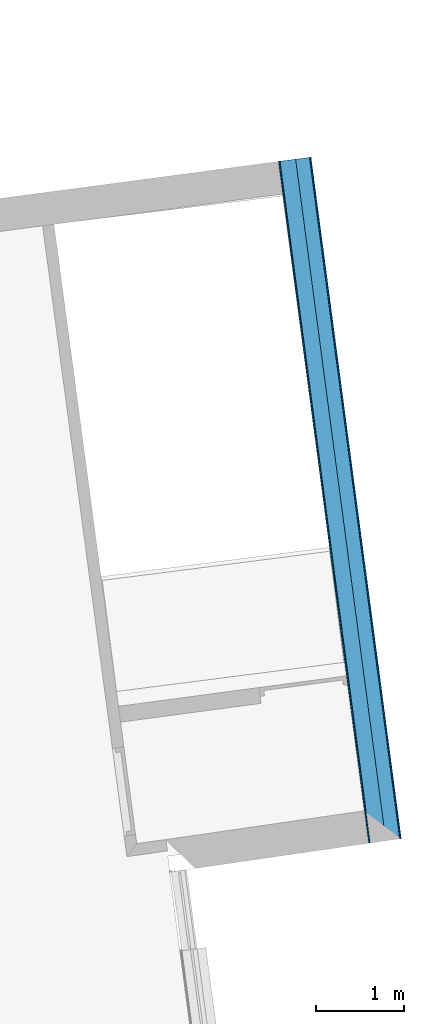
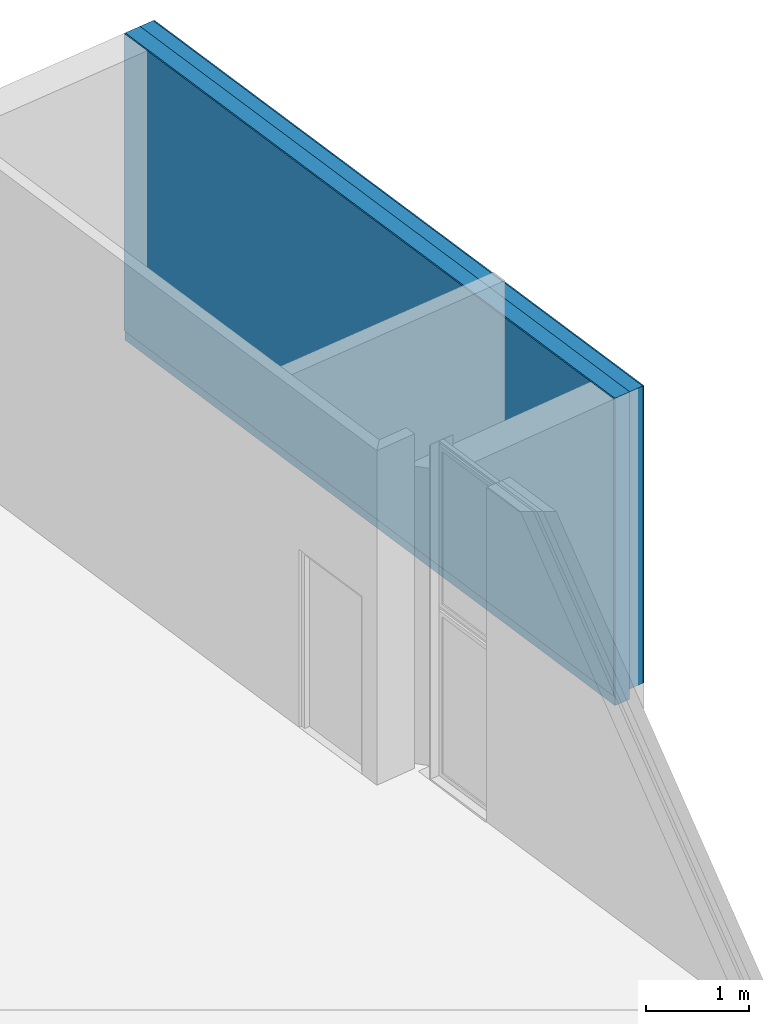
# One storey, part 6 of 9: 4 building element parts, 1 element without a shape of its own.
"""IFC2X3 building model written with IfcOpenShell, lengths in metres."""

from ifc_helpers import new_model, entity, si_unit, converted_unit, money_unit, direction, frame, origin_with_axes, place, context, subcontext, project, spatial, polyline, outline, extrude, clip, halfspace, material, type_object, element, aggregate, save


model = new_model("IFC2X3")

# Units and contexts
model_context = context("Model", 3, precision=1e-05, world=origin_with_axes(), true_north=direction((0.0, 1.0)))
body_context = subcontext(model_context, "Body", "Model", "MODEL_VIEW")
ifc_project = project(units=[si_unit("LENGTHUNIT", "METRE"), si_unit("AREAUNIT", "SQUARE_METRE"), si_unit("VOLUMEUNIT", "CUBIC_METRE"), converted_unit("PLANEANGLEUNIT", "DEGREE", entity("IfcPlaneAngleMeasure", 0.0174532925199), si_unit("PLANEANGLEUNIT", "RADIAN"), dimensions=[0, 0, 0, 0, 0, 0, 0]), si_unit("SOLIDANGLEUNIT", "STERADIAN"), money_unit("EUR"), converted_unit("TIMEUNIT", "Year", entity("IfcTimeMeasure", 31556926.0), si_unit("TIMEUNIT", "SECOND"), dimensions=[0, 0, 0, 0, 0, 0, 0]), si_unit("MASSUNIT", "GRAM"), si_unit("THERMODYNAMICTEMPERATUREUNIT", "DEGREE_CELSIUS"), si_unit("LUMINOUSINTENSITYUNIT", "LUMEN")], contexts=[model_context])

# Site, building, storey
site_placement = place(None, origin_with_axes())
site = spatial("IfcSite", under=ifc_project, at=site_placement, Name="Undefined", CompositionType="ELEMENT")
building_placement = place(site_placement, origin_with_axes())
building = spatial("IfcBuilding", under=site, at=building_placement, Name="Undefined", CompositionType="ELEMENT")
storey_placement = place(building_placement, frame((0.0, 0.0, 13.45), z_axis=(0.0, 0.0, 1.0), x_axis=(1.0, 0.0, 0.0)))
storey = spatial("IfcBuildingStorey", under=building, at=storey_placement, Name="R+2", CompositionType="ELEMENT", Elevation=13.45)

# Wall, building element parts
wall_type = type_object("IfcWallType", Name="Profil personnalis\x8e 370 x 3630", PredefinedType="NOTDEFINED")
wall_placement = place(storey_placement, frame((68.3507482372, 20.1953635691, 0.0), z_axis=(0.0, 0.0, 1.0), x_axis=(-0.131283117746, 0.99134491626, 0.0)))
wall = element("IfcWall", 1, at=wall_placement, inside=storey, type_object=wall_type, Name="SW - 014", ObjectType="WALL")
ifc_material_1 = material(Name="Finition ext - Cr\x8epis")
building_element_part_1_placement = place(wall_placement, origin_with_axes())
building_element_part_1 = element("IfcBuildingElementPart", 2, at=building_element_part_1_placement, material=ifc_material_1, context=body_context, shape_type="Clipping", body=[
    clip(extrude(outline(polyline([(-0.015, 0.0), (0.0, 0.0), (0.0, 3.51), (-0.015, 3.51), (-0.015, 0.0)])), frame((0.0, 0.0, 0.0), z_axis=(-1.0, 0.0, 0.0), x_axis=(0.0, -1.0, 0.0)), (0.0, 0.0, -1.0), 7.77321870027), halfspace(frame((-0.000514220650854, 0.523443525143, 5.98298975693), z_axis=(8.56200506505e-05, -0.0871557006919, -0.996194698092), x_axis=(0.0, 0.996194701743, -0.0871557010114)), True)),
])
ifc_material_2 = material(Name="Isolation - Fibres de bois")
building_element_part_2_placement = place(wall_placement, origin_with_axes())
building_element_part_2 = element("IfcBuildingElementPart", 3, at=building_element_part_2_placement, material=ifc_material_2, context=body_context, shape_type="Clipping", body=[
    clip(extrude(outline(polyline([(-0.175, 0.0), (-0.015, 0.0), (-0.015, 3.51), (-0.175, 3.51), (-0.175, 0.0)])), frame((0.0, 0.0, 0.0), z_axis=(-1.0, 0.0, 0.0), x_axis=(0.0, -1.0, 0.0)), (0.0, 0.0, -1.0), 7.77321870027), halfspace(frame((-0.000514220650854, 0.523443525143, 5.98298975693), z_axis=(8.56200506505e-05, -0.0871557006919, -0.996194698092), x_axis=(0.0, 0.996194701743, -0.0871557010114)), True)),
])
ifc_material_3 = material(Name="Struct. - B.A. banch\x8e")
building_element_part_3_placement = place(wall_placement, origin_with_axes())
building_element_part_3 = element("IfcBuildingElementPart", 4, at=building_element_part_3_placement, material=ifc_material_3, context=body_context, shape_type="Clipping", body=[
    clip(extrude(outline(polyline([(-0.355, -0.12), (-0.175, -0.12), (-0.175, 3.51), (-0.355, 3.51), (-0.355, -0.12)])), frame((0.0, 0.0, 0.0), z_axis=(-1.0, 0.0, 0.0), x_axis=(0.0, -1.0, 0.0)), (0.0, 0.0, -1.0), 7.77321870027), halfspace(frame((-0.000514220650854, 0.523443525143, 5.98298975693), z_axis=(8.56200506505e-05, -0.0871557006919, -0.996194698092), x_axis=(0.0, 0.996194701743, -0.0871557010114)), True)),
])
ifc_material_4 = material(Name="Finition int - Enduit pl\x89tre")
building_element_part_4_placement = place(wall_placement, origin_with_axes())
building_element_part_4 = element("IfcBuildingElementPart", 5, at=building_element_part_4_placement, material=ifc_material_4, context=body_context, shape_type="Clipping", body=[
    clip(extrude(outline(polyline([(-0.37, 0.0), (-0.355, 0.0), (-0.355, 3.51), (-0.37, 3.51), (-0.37, 0.0)])), frame((0.0, 0.0, 0.0), z_axis=(-1.0, 0.0, 0.0), x_axis=(0.0, -1.0, 0.0)), (0.0, 0.0, -1.0), 7.77321870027), halfspace(frame((-0.000514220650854, 0.523443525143, 5.98298975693), z_axis=(8.56200506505e-05, -0.0871557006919, -0.996194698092), x_axis=(0.0, 0.996194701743, -0.0871557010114)), True)),
])
aggregate(wall, [building_element_part_1, building_element_part_2, building_element_part_3, building_element_part_4])

save(model, "model.ifc")
